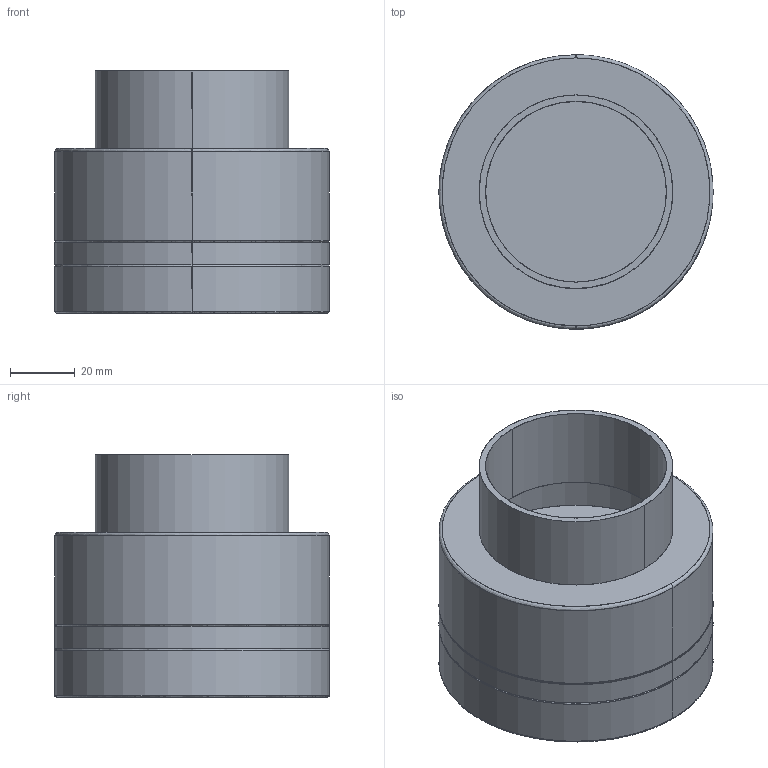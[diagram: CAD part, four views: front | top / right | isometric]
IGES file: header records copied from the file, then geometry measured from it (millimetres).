
Start section: SolidWorks IGES file using analytic representation for surfaces
Global section: file name: C:\Users\anna.bielnik\Desktop\modele 3D tymczasowe\MURTER\murter.IGS; native system: SolidWorks 2023; preprocessor: SolidWorks 2023; author: anna.bielnik; date: 230712.094902; units: millimetre
Bounding box: 85.01 x 85.01 x 75 mm (x, y, z)
Surface area: 57887.2 mm2 (no closed solid volume)
Topology: 0 solids, 0 shells, 46 faces, 1544 edges, 1544 vertices
Faces by surface type: revolution 24, bspline 22
